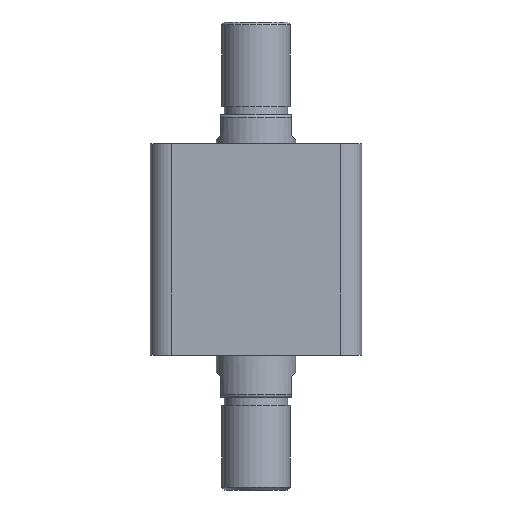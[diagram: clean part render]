
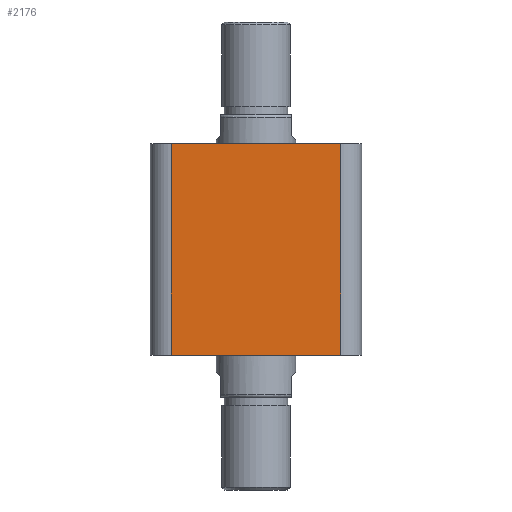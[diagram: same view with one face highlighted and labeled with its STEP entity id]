
A CAD part, front view. The second image highlights one B-rep face of the part: STEP entity #2176.
In plain terms, the highlighted planar face has unit normal (0, -1, 0).
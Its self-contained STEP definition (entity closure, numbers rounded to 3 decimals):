
#104 = VERTEX_POINT ( 'NONE', #597 ) ;
#106 = ORIENTED_EDGE ( 'NONE', *, *, #3099, .T. ) ;
#111 = VERTEX_POINT ( 'NONE', #595 ) ;
#145 = VERTEX_POINT ( 'NONE', #726 ) ;
#146 = VERTEX_POINT ( 'NONE', #725 ) ;
#394 = FACE_OUTER_BOUND ( 'NONE', #2893, .T. ) ;
#595 = CARTESIAN_POINT ( 'NONE',  ( 32., -40., 80. ) ) ;
#597 = CARTESIAN_POINT ( 'NONE',  ( -32., -40., 80. ) ) ;
#725 = CARTESIAN_POINT ( 'NONE',  ( 32., -40., 0. ) ) ;
#726 = CARTESIAN_POINT ( 'NONE',  ( -32., -40., 0. ) ) ;
#983 = LINE ( 'NONE', #1418, #996 ) ;
#989 = LINE ( 'NONE', #1428, #992 ) ;
#991 = LINE ( 'NONE', #1430, #994 ) ;
#992 = VECTOR ( 'NONE', #1429, 1000. ) ;
#994 = VECTOR ( 'NONE', #1431, 1000. ) ;
#995 = LINE ( 'NONE', #1433, #998 ) ;
#996 = VECTOR ( 'NONE', #1432, 1000. ) ;
#998 = VECTOR ( 'NONE', #1434, 1000. ) ;
#1418 = CARTESIAN_POINT ( 'NONE',  ( -40., -40., 0. ) ) ;
#1428 = CARTESIAN_POINT ( 'NONE',  ( -40., -40., 80. ) ) ;
#1429 = DIRECTION ( 'NONE',  ( 1., 0., 0. ) ) ;
#1430 = CARTESIAN_POINT ( 'NONE',  ( -32., -40., 80. ) ) ;
#1431 = DIRECTION ( 'NONE',  ( 0., 0., -1. ) ) ;
#1432 = DIRECTION ( 'NONE',  ( 1., 0., 0. ) ) ;
#1433 = CARTESIAN_POINT ( 'NONE',  ( 32., -40., 80. ) ) ;
#1434 = DIRECTION ( 'NONE',  ( 0., 0., 1. ) ) ;
#2176 = ADVANCED_FACE ( 'NONE', ( #394 ), #2802, .F. ) ;
#2317 = AXIS2_PLACEMENT_3D ( 'NONE', #2800, #2804, #2805 ) ;
#2800 = CARTESIAN_POINT ( 'NONE',  ( -40., -40., 80. ) ) ;
#2802 = PLANE ( 'NONE',  #2317 ) ;
#2804 = DIRECTION ( 'NONE',  ( 0., 1., 0. ) ) ;
#2805 = DIRECTION ( 'NONE',  ( 0., 0., 1. ) ) ;
#2864 = ORIENTED_EDGE ( 'NONE', *, *, #3098, .F. ) ;
#2893 = EDGE_LOOP ( 'NONE', ( #2864, #106, #3279, #3280 ) ) ;
#3098 = EDGE_CURVE ( 'NONE', #104, #111, #989, .T. ) ;
#3099 = EDGE_CURVE ( 'NONE', #104, #145, #991, .T. ) ;
#3100 = EDGE_CURVE ( 'NONE', #145, #146, #983, .T. ) ;
#3101 = EDGE_CURVE ( 'NONE', #146, #111, #995, .T. ) ;
#3279 = ORIENTED_EDGE ( 'NONE', *, *, #3100, .T. ) ;
#3280 = ORIENTED_EDGE ( 'NONE', *, *, #3101, .T. ) ;
